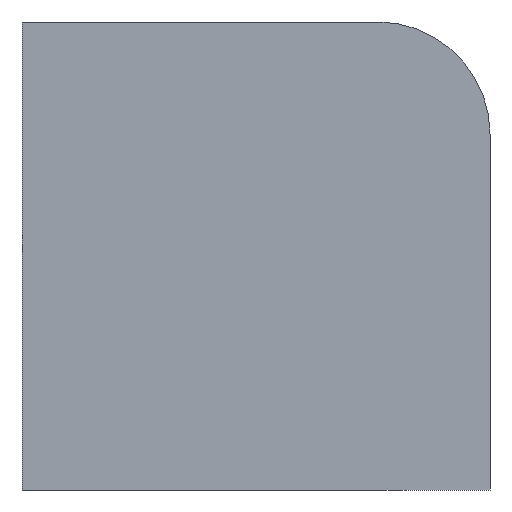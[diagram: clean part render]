
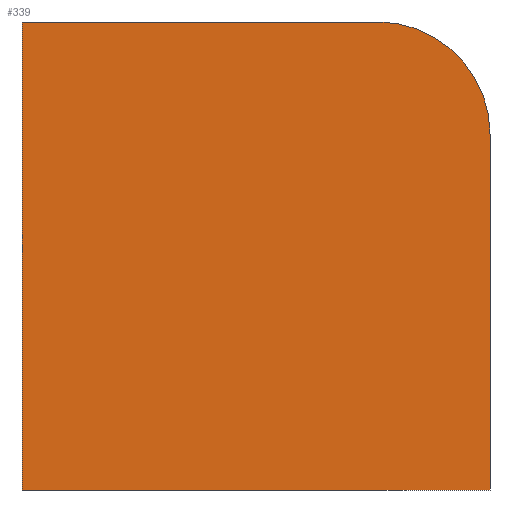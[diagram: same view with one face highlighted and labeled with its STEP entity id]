
A CAD part, front view. The second image highlights one B-rep face of the part: STEP entity #339.
In plain terms, the highlighted planar face has unit normal (0, -1, 0).
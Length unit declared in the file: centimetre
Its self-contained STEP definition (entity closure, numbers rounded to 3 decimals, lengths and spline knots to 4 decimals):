
#5 = ORIENTED_EDGE ( 'NONE', *, *, #319, .T. ) ;
#38 = CARTESIAN_POINT ( 'NONE',  ( 0., 0., 1000. ) ) ;
#41 = DIRECTION ( 'NONE',  ( 0., 0., 1. ) ) ;
#44 = VECTOR ( 'NONE', #248, 100. ) ;
#69 = VERTEX_POINT ( 'NONE', #187 ) ;
#71 = EDGE_LOOP ( 'NONE', ( #332, #376, #367, #298, #5 ) ) ;
#88 = EDGE_CURVE ( 'NONE', #69, #330, #220, .T. ) ;
#93 = VERTEX_POINT ( 'NONE', #279 ) ;
#103 = PLANE ( 'NONE',  #185 ) ;
#106 = VECTOR ( 'NONE', #357, 100. ) ;
#109 = CARTESIAN_POINT ( 'NONE',  ( 0., 0., 0. ) ) ;
#111 = CARTESIAN_POINT ( 'NONE',  ( 0., 0., 0. ) ) ;
#132 = EDGE_CURVE ( 'NONE', #69, #278, #349, .T. ) ;
#133 = CARTESIAN_POINT ( 'NONE',  ( 1000., 0., 0. ) ) ;
#148 = VERTEX_POINT ( 'NONE', #133 ) ;
#164 = DIRECTION ( 'NONE',  ( 0., 0., -1. ) ) ;
#185 = AXIS2_PLACEMENT_3D ( 'NONE', #299, #351, #388 ) ;
#186 = EDGE_CURVE ( 'NONE', #93, #278, #238, .T. ) ;
#187 = CARTESIAN_POINT ( 'NONE',  ( 0., 0., 1000. ) ) ;
#190 = CARTESIAN_POINT ( 'NONE',  ( 760.3841, 0., 760.3841 ) ) ;
#192 = DIRECTION ( 'NONE',  ( 0., -1., 0. ) ) ;
#195 = LINE ( 'NONE', #320, #387 ) ;
#202 = FACE_OUTER_BOUND ( 'NONE', #71, .T. ) ;
#208 = EDGE_CURVE ( 'NONE', #93, #148, #195, .T. ) ;
#220 = LINE ( 'NONE', #38, #329 ) ;
#236 = CARTESIAN_POINT ( 'NONE',  ( 760.3841, 0., 1000. ) ) ;
#238 = CIRCLE ( 'NONE', #280, 239.6159 ) ;
#248 = DIRECTION ( 'NONE',  ( 1., 0., 0. ) ) ;
#254 = DIRECTION ( 'NONE',  ( 0., 0., -1. ) ) ;
#278 = VERTEX_POINT ( 'NONE', #236 ) ;
#279 = CARTESIAN_POINT ( 'NONE',  ( 1000., 0., 760.3841 ) ) ;
#280 = AXIS2_PLACEMENT_3D ( 'NONE', #190, #192, #41 ) ;
#298 = ORIENTED_EDGE ( 'NONE', *, *, #88, .T. ) ;
#299 = CARTESIAN_POINT ( 'NONE',  ( 0., 0., 1000. ) ) ;
#311 = CARTESIAN_POINT ( 'NONE',  ( 0., 0., 1000. ) ) ;
#319 = EDGE_CURVE ( 'NONE', #330, #148, #325, .T. ) ;
#320 = CARTESIAN_POINT ( 'NONE',  ( 1000., 0., 1000. ) ) ;
#325 = LINE ( 'NONE', #111, #106 ) ;
#329 = VECTOR ( 'NONE', #254, 100. ) ;
#330 = VERTEX_POINT ( 'NONE', #109 ) ;
#332 = ORIENTED_EDGE ( 'NONE', *, *, #208, .F. ) ;
#339 = ADVANCED_FACE ( 'NONE', ( #202 ), #103, .F. ) ;
#349 = LINE ( 'NONE', #311, #44 ) ;
#351 = DIRECTION ( 'NONE',  ( 0., 1., 0. ) ) ;
#357 = DIRECTION ( 'NONE',  ( 1., 0., 0. ) ) ;
#367 = ORIENTED_EDGE ( 'NONE', *, *, #132, .F. ) ;
#376 = ORIENTED_EDGE ( 'NONE', *, *, #186, .T. ) ;
#387 = VECTOR ( 'NONE', #164, 100. ) ;
#388 = DIRECTION ( 'NONE',  ( 0., 0., 1. ) ) ;
